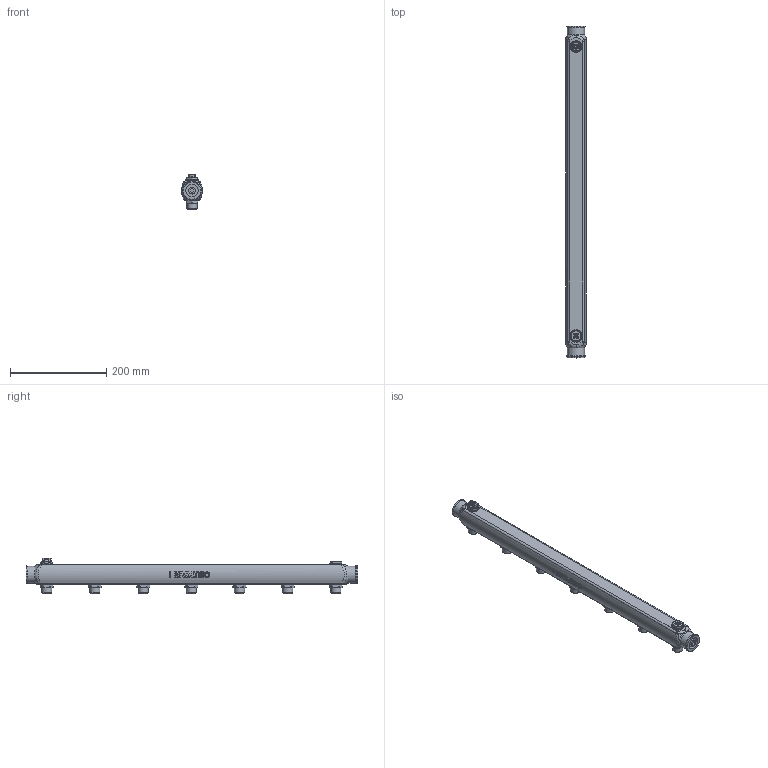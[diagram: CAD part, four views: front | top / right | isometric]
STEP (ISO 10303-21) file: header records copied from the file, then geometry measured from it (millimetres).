
FILE_DESCRIPTION(('STEP AP203'), '1');
FILE_NAME('覆.622621.027.000 捘 - VTc.510.SS.060407', '2024-08-21T12:49:27', ('Boss'), (''), 'C3D Converter', 'C3D Toolkit', '');
FILE_SCHEMA(('CONFIG_CONTROL_DESIGN'));
Length unit declared in the file: millimetre
Products named in the file (1): ВР.622621.027.000 СБ
Bounding box: 43 x 688.5 x 73 mm (x, y, z)
Volume: 212275.2 mm3; surface area: 215512.2 mm2
Topology: 1 solids, 4 shells, 1022 faces, 2629 edges, 1698 vertices
Faces by surface type: plane 398, extrusion 230, cylinder 186, cone 147, bspline 52, torus 9
Full cylindrical faces by diameter (mm): 1 x1, 5 x1, 5.3 x1, 10.2 x1, 12 x7, 13 x1, 14 x1, 20.955 x15, 22 x10, 24 x1, 25.5 x1, 26 x1, 28 x1, 30.292 x2, 35.5 x2, 37 x1
Entity records: 59131 total; most frequent: CARTESIAN_POINT 36200, ORIENTED_EDGE 5028, DIRECTION 3897, EDGE_CURVE 2514, VERTEX_POINT 1707, AXIS2_PLACEMENT_3D 1308, VECTOR 1281, EDGE_LOOP 1225
